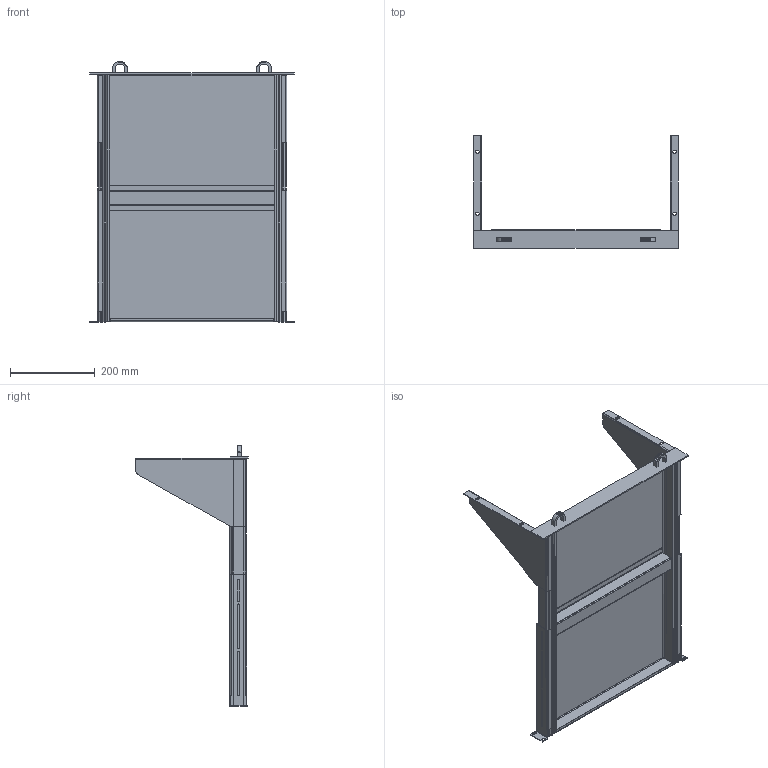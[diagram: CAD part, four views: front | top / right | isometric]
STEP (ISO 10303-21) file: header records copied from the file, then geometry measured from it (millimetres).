
FILE_DESCRIPTION((''),'2;1');
FILE_NAME('ASS5-23VTR_ASM','2013-08-28T',('bmann'),('Middle Atlantic Products'),'PRO/ENGINEER BY PARAMETRIC TECHNOLOGY CORPORATION, 2012420','PRO/ENGINEER BY PARAMETRIC TECHNOLOGY CORPORATION, 2012420','');
FILE_SCHEMA(('CONFIG_CONTROL_DESIGN'));
Length unit declared in the file: inch
Products named in the file (13): BVTRB; BVTRBS; PVTRB_ASM; 500-00743_SLIDE_OUTER; 500-00743_SLIDE_MIDDLE; 500-00734_SLIDE_INNER; ST500-00743_ASM; PVTR5EL; PVTR5ER; PVTRFP; PVTRRS; 500-00751; ASS5-23VTR_ASM
Assembly tree (15 placements, depth 3):
  ASS5-23VTR_ASM
    PVTRB_ASM
      BVTRB
      BVTRBS
    ST500-00743_ASM  x2
      500-00743_SLIDE_OUTER
      500-00743_SLIDE_MIDDLE
      500-00734_SLIDE_INNER
    PVTR5EL
    PVTR5ER
    PVTRFP
    PVTRRS  x2
    500-00751  x2
Bounding box: 483.01 x 265.63 x 615.02 mm (x, y, z)
Volume: 872757.9 mm3; surface area: 1276598.1 mm2
Topology: 15 solids, 15 shells, 598 faces, 1364 edges, 800 vertices
Faces by surface type: plane 446, cylinder 140, bspline 12
Entity records: 11290 total; most frequent: CARTESIAN_POINT 2203, DIRECTION 1865, ORIENTED_EDGE 1766, EDGE_CURVE 883, VECTOR 689, LINE 689, AXIS2_PLACEMENT_3D 588, VERTEX_POINT 514
